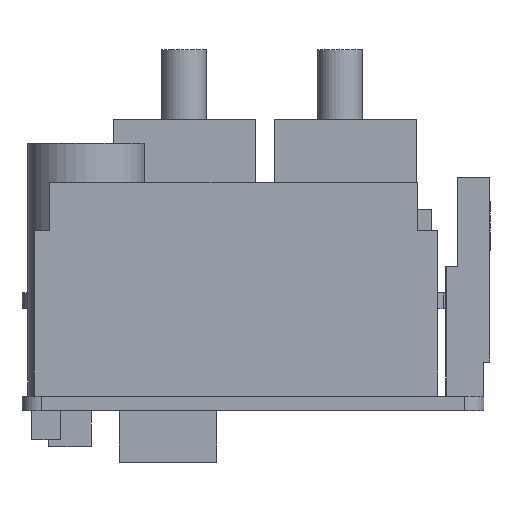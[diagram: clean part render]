
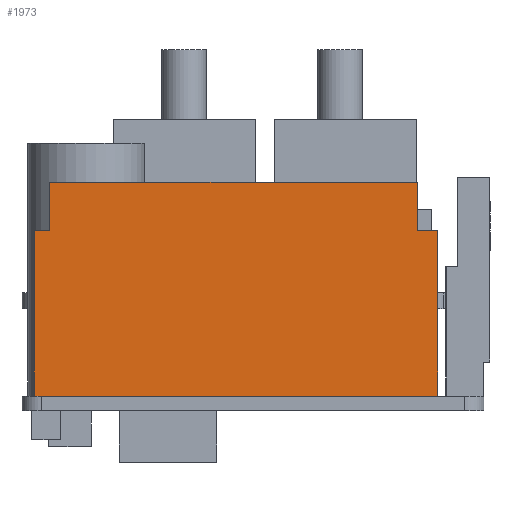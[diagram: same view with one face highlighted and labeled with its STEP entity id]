
A CAD part, left-side view. The second image highlights one B-rep face of the part: STEP entity #1973.
In plain terms, the highlighted planar face has unit normal (-1, 0, 0).
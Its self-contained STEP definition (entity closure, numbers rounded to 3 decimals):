
#23 = VERTEX_POINT ( 'NONE', #1439 ) ;
#116 = DIRECTION ( 'NONE',  ( 0., 0., -1. ) ) ;
#141 = AXIS2_PLACEMENT_3D ( 'NONE', #1534, #1190, #4339 ) ;
#163 = CARTESIAN_POINT ( 'NONE',  ( 424.388, -41.75, 23.5 ) ) ;
#264 = DIRECTION ( 'NONE',  ( 0., -1., 0. ) ) ;
#558 = VECTOR ( 'NONE', #3602, 1000. ) ;
#612 = EDGE_CURVE ( 'NONE', #1808, #1720, #4427, .T. ) ;
#837 = VECTOR ( 'NONE', #2915, 1000. ) ;
#845 = VECTOR ( 'NONE', #264, 1000. ) ;
#854 = CARTESIAN_POINT ( 'NONE',  ( 424.388, -41.75, 18.5 ) ) ;
#930 = CARTESIAN_POINT ( 'NONE',  ( 424.388, -2.367, 1.5 ) ) ;
#983 = EDGE_CURVE ( 'NONE', #1097, #1265, #1288, .T. ) ;
#1027 = VECTOR ( 'NONE', #4256, 1000. ) ;
#1080 = CARTESIAN_POINT ( 'NONE',  ( 424.388, -3.98, 18.5 ) ) ;
#1097 = VERTEX_POINT ( 'NONE', #4501 ) ;
#1160 = CARTESIAN_POINT ( 'NONE',  ( 424.388, -2.367, 18.5 ) ) ;
#1190 = DIRECTION ( 'NONE',  ( 1., 0., 0. ) ) ;
#1265 = VERTEX_POINT ( 'NONE', #1080 ) ;
#1288 = LINE ( 'NONE', #1307, #1799 ) ;
#1307 = CARTESIAN_POINT ( 'NONE',  ( 424.388, -3.98, 23.5 ) ) ;
#1334 = ORIENTED_EDGE ( 'NONE', *, *, #983, .T. ) ;
#1439 = CARTESIAN_POINT ( 'NONE',  ( 424.388, -43.867, 1.5 ) ) ;
#1501 = CARTESIAN_POINT ( 'NONE',  ( 424.388, -2.367, 18.5 ) ) ;
#1534 = CARTESIAN_POINT ( 'NONE',  ( 424.388, -2.367, 18.5 ) ) ;
#1544 = EDGE_CURVE ( 'NONE', #4128, #23, #2398, .T. ) ;
#1571 = VECTOR ( 'NONE', #3222, 1000. ) ;
#1681 = EDGE_CURVE ( 'NONE', #3856, #4128, #3527, .T. ) ;
#1720 = VERTEX_POINT ( 'NONE', #854 ) ;
#1799 = VECTOR ( 'NONE', #4133, 1000. ) ;
#1808 = VERTEX_POINT ( 'NONE', #163 ) ;
#1809 = CARTESIAN_POINT ( 'NONE',  ( 424.388, -2.367, 18.5 ) ) ;
#1893 = ORIENTED_EDGE ( 'NONE', *, *, #2267, .F. ) ;
#1973 = ADVANCED_FACE ( 'NONE', ( #4063 ), #2321, .F. ) ;
#1975 = EDGE_LOOP ( 'NONE', ( #1981, #1893, #2002, #4333, #2131, #1334, #2816, #4440 ) ) ;
#1981 = ORIENTED_EDGE ( 'NONE', *, *, #1544, .T. ) ;
#2002 = ORIENTED_EDGE ( 'NONE', *, *, #2414, .F. ) ;
#2110 = CARTESIAN_POINT ( 'NONE',  ( 424.388, -43.867, 18.5 ) ) ;
#2131 = ORIENTED_EDGE ( 'NONE', *, *, #3437, .F. ) ;
#2208 = CARTESIAN_POINT ( 'NONE',  ( 424.388, -3.98, 23.5 ) ) ;
#2267 = EDGE_CURVE ( 'NONE', #4167, #23, #4500, .T. ) ;
#2321 = PLANE ( 'NONE',  #141 ) ;
#2376 = LINE ( 'NONE', #1160, #3194 ) ;
#2398 = LINE ( 'NONE', #3040, #845 ) ;
#2414 = EDGE_CURVE ( 'NONE', #1720, #4167, #2987, .T. ) ;
#2543 = CARTESIAN_POINT ( 'NONE',  ( 424.388, -2.367, 18.5 ) ) ;
#2816 = ORIENTED_EDGE ( 'NONE', *, *, #3373, .F. ) ;
#2856 = CARTESIAN_POINT ( 'NONE',  ( 424.388, -41.75, 23.5 ) ) ;
#2881 = DIRECTION ( 'NONE',  ( 0., -1., 0. ) ) ;
#2915 = DIRECTION ( 'NONE',  ( 0., -1., 0. ) ) ;
#2987 = LINE ( 'NONE', #2543, #837 ) ;
#3040 = CARTESIAN_POINT ( 'NONE',  ( 424.388, -2.367, 1.5 ) ) ;
#3173 = CARTESIAN_POINT ( 'NONE',  ( 424.388, -43.867, 18.5 ) ) ;
#3194 = VECTOR ( 'NONE', #2881, 1000. ) ;
#3222 = DIRECTION ( 'NONE',  ( 0., 0., -1. ) ) ;
#3373 = EDGE_CURVE ( 'NONE', #3856, #1265, #2376, .T. ) ;
#3437 = EDGE_CURVE ( 'NONE', #1097, #1808, #3946, .T. ) ;
#3527 = LINE ( 'NONE', #1501, #4123 ) ;
#3602 = DIRECTION ( 'NONE',  ( 0., -1., 0. ) ) ;
#3856 = VERTEX_POINT ( 'NONE', #1809 ) ;
#3946 = LINE ( 'NONE', #2208, #558 ) ;
#4063 = FACE_OUTER_BOUND ( 'NONE', #1975, .T. ) ;
#4123 = VECTOR ( 'NONE', #116, 1000. ) ;
#4128 = VERTEX_POINT ( 'NONE', #930 ) ;
#4133 = DIRECTION ( 'NONE',  ( 0., 0., -1. ) ) ;
#4167 = VERTEX_POINT ( 'NONE', #2110 ) ;
#4256 = DIRECTION ( 'NONE',  ( 0., 0., -1. ) ) ;
#4333 = ORIENTED_EDGE ( 'NONE', *, *, #612, .F. ) ;
#4339 = DIRECTION ( 'NONE',  ( 0., 1., 0. ) ) ;
#4427 = LINE ( 'NONE', #2856, #1027 ) ;
#4440 = ORIENTED_EDGE ( 'NONE', *, *, #1681, .T. ) ;
#4500 = LINE ( 'NONE', #3173, #1571 ) ;
#4501 = CARTESIAN_POINT ( 'NONE',  ( 424.388, -3.98, 23.5 ) ) ;
